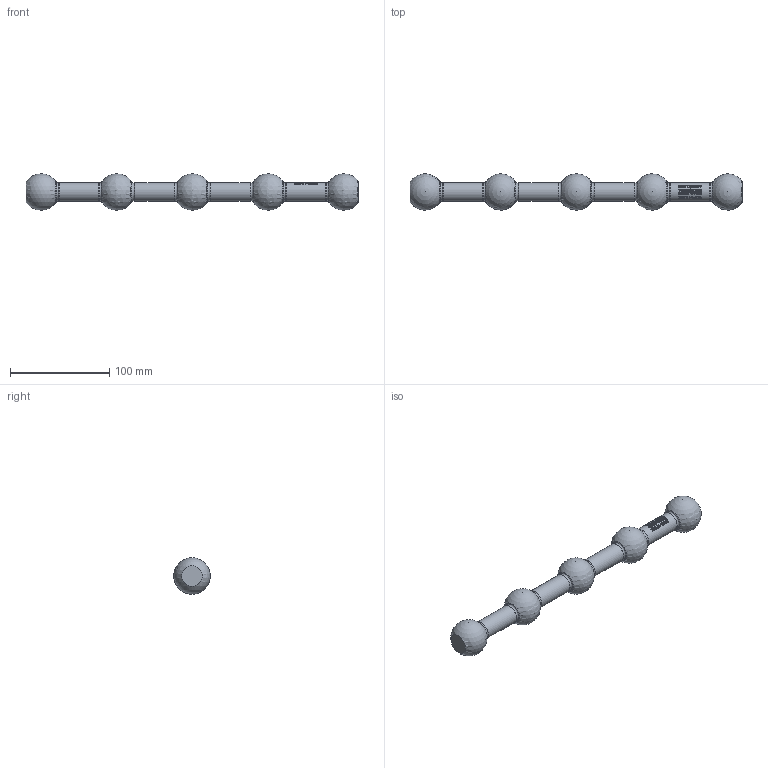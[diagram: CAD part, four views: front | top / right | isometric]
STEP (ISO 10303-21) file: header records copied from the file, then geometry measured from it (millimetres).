
FILE_DESCRIPTION(/* description */ (''),/* implementation_level */ '2;1');
FILE_NAME(/* name */ 'C:\Users\owner\Desktop\HDPL-HYPERLINKS_3D_stp\HDPL-HLINK12IN.stp',/* time_stamp */ '2017-10-02T13:31:15-04:00',/* author */ ('owner'),/* organization */ (''),/* preprocessor_version */ 'ST-DEVELOPER v16.5',/* originating_system */ 'Autodesk Inventor 2017',/* authorisation */ '');
FILE_SCHEMA (('CONFIG_CONTROL_DESIGN'));
Length unit declared in the file: inch
Products named in the file (4): PL-HDHLINK12IN; 60062; 60062_1; 60063
Assembly tree (5 placements, depth 2):
  PL-HDHLINK12IN
    60062
    60062_1  x3
    60063
Bounding box: 334 x 36.55 x 36.65 mm (x, y, z)
Volume: 169731.3 mm3; surface area: 40770.3 mm2
Topology: 5 solids, 5 shells, 852 faces, 2242 edges, 1472 vertices
Faces by surface type: bspline 346, plane 342, cylinder 101, torus 44, cone 14, sphere 5
Full cylindrical faces by diameter (mm): 13.017 x4, 13.08 x16, 13.109 x5, 19.083 x4, 21.92 x4
Entity records: 33250 total; most frequent: CARTESIAN_POINT 15392, ORIENTED_EDGE 4146, DIRECTION 2712, EDGE_CURVE 2073, VERTEX_POINT 1401, LINE 1008, VECTOR 1008, EDGE_LOOP 918
